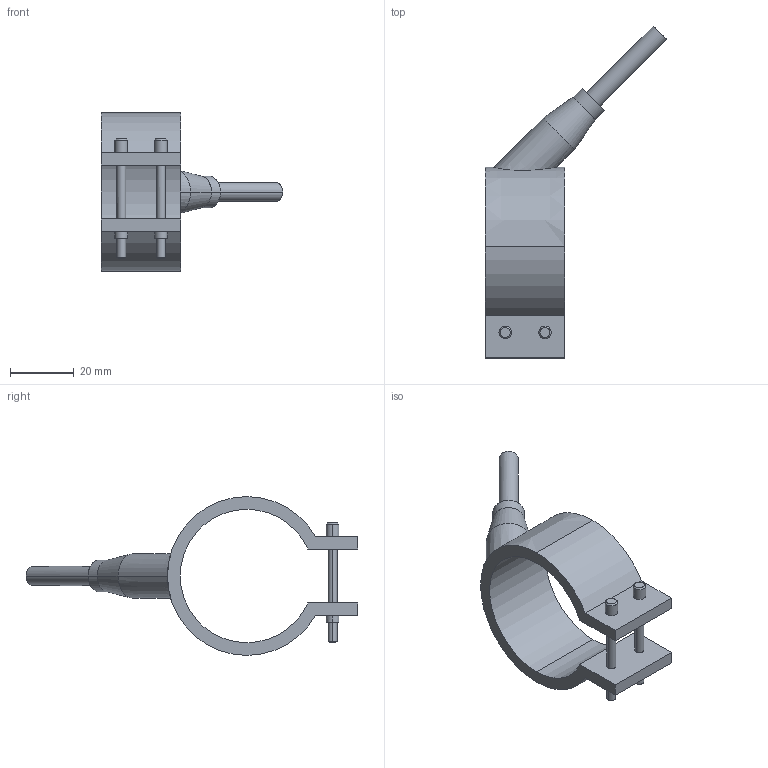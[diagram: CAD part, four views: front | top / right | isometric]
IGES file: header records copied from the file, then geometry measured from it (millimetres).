
Start section: START RECORD GO HERE.
Global section: file name: 29042025.igs; native system: DASSAULT SYSTEMES CATIA V5 R20 - www.3ds.com; preprocessor: CATIA Version 5 Release 20 ; author: Utente; organization: NB04-ASUS; date: 20210327.103959; units: millimetre
Bounding box: 57.05 x 104.55 x 50 mm (x, y, z)
Surface area: 11209.3 mm2 (no closed solid volume)
Topology: 0 solids, 0 shells, 54 faces, 246 edges, 246 vertices
Faces by surface type: revolution 38, plane 16
